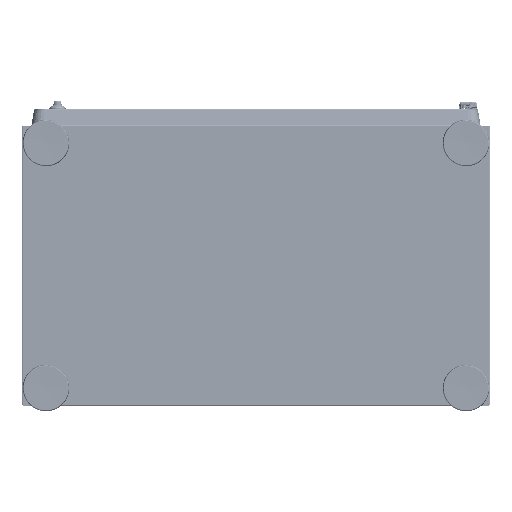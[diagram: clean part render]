
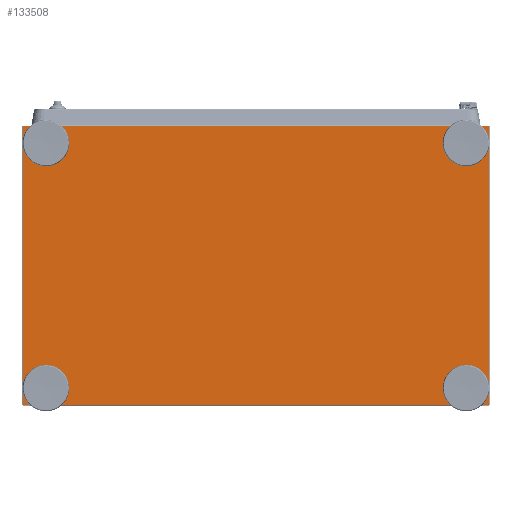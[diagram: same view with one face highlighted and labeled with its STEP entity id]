
A CAD part, front view. The second image highlights one B-rep face of the part: STEP entity #133508.
In plain terms, the highlighted planar face has unit normal (0, -1, 0) as drawn and (0, 0, 1) by its records, which use the part's own axes.
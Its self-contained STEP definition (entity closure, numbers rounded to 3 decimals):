
#1869 = CARTESIAN_POINT ( 'NONE',  ( -360., 210., 0. ) ) ;
#2169 = FACE_OUTER_BOUND ( 'NONE', #46766, .T. ) ;
#2260 = CARTESIAN_POINT ( 'NONE',  ( -399.429, -238.4, 0. ) ) ;
#2987 = VECTOR ( 'NONE', #48014, 1000. ) ;
#3164 = AXIS2_PLACEMENT_3D ( 'NONE', #15748, #83359, #151090 ) ;
#5316 = DIRECTION ( 'NONE',  ( 0., -1., 0. ) ) ;
#5492 = VERTEX_POINT ( 'NONE', #126043 ) ;
#8489 = VERTEX_POINT ( 'NONE', #161054 ) ;
#14598 = DIRECTION ( 'NONE',  ( 0., 0., 1. ) ) ;
#15214 = CARTESIAN_POINT ( 'NONE',  ( 399.4, 238.4, 0. ) ) ;
#15396 = DIRECTION ( 'NONE',  ( 1., 0., 0. ) ) ;
#15748 = CARTESIAN_POINT ( 'NONE',  ( 360., 210., 0. ) ) ;
#16508 = EDGE_LOOP ( 'NONE', ( #73150, #167597 ) ) ;
#17132 = CARTESIAN_POINT ( 'NONE',  ( 360., 210., 0. ) ) ;
#17245 = DIRECTION ( 'NONE',  ( 0., 0., 1. ) ) ;
#22624 = EDGE_CURVE ( 'NONE', #135163, #54489, #182198, .T. ) ;
#24409 = AXIS2_PLACEMENT_3D ( 'NONE', #25384, #123092, #126313 ) ;
#24881 = ORIENTED_EDGE ( 'NONE', *, *, #213248, .F. ) ;
#24917 = VERTEX_POINT ( 'NONE', #15214 ) ;
#25384 = CARTESIAN_POINT ( 'NONE',  ( -360., -210., 0. ) ) ;
#29949 = EDGE_CURVE ( 'NONE', #46911, #155435, #55289, .T. ) ;
#30849 = CIRCLE ( 'NONE', #154840, 10.5 ) ;
#32047 = CARTESIAN_POINT ( 'NONE',  ( 349.5, 210., 0. ) ) ;
#33892 = VERTEX_POINT ( 'NONE', #161455 ) ;
#36606 = ORIENTED_EDGE ( 'NONE', *, *, #154384, .F. ) ;
#38863 = EDGE_CURVE ( 'NONE', #33892, #140602, #30849, .T. ) ;
#39073 = VECTOR ( 'NONE', #123111, 1000. ) ;
#39753 = FACE_BOUND ( 'NONE', #157023, .T. ) ;
#40952 = ORIENTED_EDGE ( 'NONE', *, *, #22624, .F. ) ;
#43048 = EDGE_CURVE ( 'NONE', #155435, #46911, #98711, .T. ) ;
#43244 = VECTOR ( 'NONE', #5316, 1000. ) ;
#44081 = DIRECTION ( 'NONE',  ( 1., 0., 0. ) ) ;
#45619 = CARTESIAN_POINT ( 'NONE',  ( 399.4, -238.429, 0. ) ) ;
#46766 = EDGE_LOOP ( 'NONE', ( #68773, #172195, #207565, #65306, #50299, #68606, #201442, #120416 ) ) ;
#46911 = VERTEX_POINT ( 'NONE', #153319 ) ;
#48014 = DIRECTION ( 'NONE',  ( -1., 0., 0. ) ) ;
#48716 = LINE ( 'NONE', #98674, #114016 ) ;
#49848 = EDGE_CURVE ( 'NONE', #54312, #102368, #136612, .T. ) ;
#50299 = ORIENTED_EDGE ( 'NONE', *, *, #208452, .T. ) ;
#52295 = DIRECTION ( 'NONE',  ( -1., 0., 0. ) ) ;
#54312 = VERTEX_POINT ( 'NONE', #82455 ) ;
#54489 = VERTEX_POINT ( 'NONE', #125575 ) ;
#55289 = CIRCLE ( 'NONE', #179253, 10.5 ) ;
#65306 = ORIENTED_EDGE ( 'NONE', *, *, #119884, .T. ) ;
#65324 = AXIS2_PLACEMENT_3D ( 'NONE', #1869, #188140, #168263 ) ;
#68606 = ORIENTED_EDGE ( 'NONE', *, *, #93873, .T. ) ;
#68773 = ORIENTED_EDGE ( 'NONE', *, *, #145676, .T. ) ;
#69267 = CARTESIAN_POINT ( 'NONE',  ( 360., -210., 0. ) ) ;
#69356 = LINE ( 'NONE', #173626, #140483 ) ;
#73150 = ORIENTED_EDGE ( 'NONE', *, *, #38863, .F. ) ;
#77215 = EDGE_CURVE ( 'NONE', #54489, #135163, #166212, .T. ) ;
#82199 = DIRECTION ( 'NONE',  ( 1., 0., 0. ) ) ;
#82455 = CARTESIAN_POINT ( 'NONE',  ( 334.429, 238.4, 0. ) ) ;
#83041 = CIRCLE ( 'NONE', #65324, 10.5 ) ;
#83359 = DIRECTION ( 'NONE',  ( 0., 0., 1. ) ) ;
#84831 = DIRECTION ( 'NONE',  ( 1., 0., 0. ) ) ;
#88351 = EDGE_CURVE ( 'NONE', #24917, #54312, #132287, .T. ) ;
#89661 = CARTESIAN_POINT ( 'NONE',  ( -401., -240., 0. ) ) ;
#93873 = EDGE_CURVE ( 'NONE', #127825, #186982, #155289, .T. ) ;
#95091 = LINE ( 'NONE', #197069, #148122 ) ;
#98674 = CARTESIAN_POINT ( 'NONE',  ( -399.429, -238.4, 0. ) ) ;
#98711 = CIRCLE ( 'NONE', #24409, 10.5 ) ;
#98802 = CIRCLE ( 'NONE', #3164, 10.5 ) ;
#98929 = CARTESIAN_POINT ( 'NONE',  ( 360., -210., 0. ) ) ;
#99257 = DIRECTION ( 'NONE',  ( 1., 0., 0. ) ) ;
#102368 = VERTEX_POINT ( 'NONE', #215442 ) ;
#107442 = FACE_BOUND ( 'NONE', #150867, .T. ) ;
#108443 = DIRECTION ( 'NONE',  ( 0., 0., 1. ) ) ;
#108855 = EDGE_CURVE ( 'NONE', #8489, #5492, #95091, .T. ) ;
#114016 = VECTOR ( 'NONE', #15396, 1000. ) ;
#115382 = DIRECTION ( 'NONE',  ( 1., 0., 0. ) ) ;
#115872 = DIRECTION ( 'NONE',  ( 0., 0., 1. ) ) ;
#118206 = EDGE_LOOP ( 'NONE', ( #24881, #36606 ) ) ;
#119884 = EDGE_CURVE ( 'NONE', #102368, #132509, #69356, .T. ) ;
#120416 = ORIENTED_EDGE ( 'NONE', *, *, #108855, .T. ) ;
#121806 = CARTESIAN_POINT ( 'NONE',  ( -399.4, 238.429, 0. ) ) ;
#122857 = AXIS2_PLACEMENT_3D ( 'NONE', #17132, #115872, #99257 ) ;
#123025 = PLANE ( 'NONE',  #190820 ) ;
#123092 = DIRECTION ( 'NONE',  ( 0., 0., 1. ) ) ;
#123111 = DIRECTION ( 'NONE',  ( 1., 0., 0. ) ) ;
#125575 = CARTESIAN_POINT ( 'NONE',  ( 370.5, -210., 0. ) ) ;
#125837 = VECTOR ( 'NONE', #145427, 1000. ) ;
#126043 = CARTESIAN_POINT ( 'NONE',  ( 399.4, -238.4, 0. ) ) ;
#126313 = DIRECTION ( 'NONE',  ( 1., 0., 0. ) ) ;
#127825 = VERTEX_POINT ( 'NONE', #171427 ) ;
#132287 = LINE ( 'NONE', #199928, #2987 ) ;
#132417 = ORIENTED_EDGE ( 'NONE', *, *, #43048, .F. ) ;
#132509 = VERTEX_POINT ( 'NONE', #210499 ) ;
#133508 = ADVANCED_FACE ( 'NONE', ( #107442, #154084, #138551, #39753, #2169 ), #123025, .F. ) ;
#135163 = VERTEX_POINT ( 'NONE', #149568 ) ;
#135874 = CARTESIAN_POINT ( 'NONE',  ( -370.5, 210., 0. ) ) ;
#136612 = LINE ( 'NONE', #204239, #207774 ) ;
#137537 = EDGE_CURVE ( 'NONE', #186982, #8489, #48716, .T. ) ;
#138551 = FACE_BOUND ( 'NONE', #118206, .T. ) ;
#140483 = VECTOR ( 'NONE', #141445, 1000. ) ;
#140524 = VERTEX_POINT ( 'NONE', #216847 ) ;
#140602 = VERTEX_POINT ( 'NONE', #135874 ) ;
#140745 = DIRECTION ( 'NONE',  ( -1., 0., 0. ) ) ;
#141445 = DIRECTION ( 'NONE',  ( -1., 0., 0. ) ) ;
#143906 = CARTESIAN_POINT ( 'NONE',  ( -360., 210., 0. ) ) ;
#145427 = DIRECTION ( 'NONE',  ( 0., 1., 0. ) ) ;
#145676 = EDGE_CURVE ( 'NONE', #5492, #24917, #183025, .T. ) ;
#148122 = VECTOR ( 'NONE', #44081, 1000. ) ;
#149568 = CARTESIAN_POINT ( 'NONE',  ( 349.5, -210., 0. ) ) ;
#150867 = EDGE_LOOP ( 'NONE', ( #132417, #203076 ) ) ;
#151090 = DIRECTION ( 'NONE',  ( 1., 0., 0. ) ) ;
#153319 = CARTESIAN_POINT ( 'NONE',  ( -370.5, -210., 0. ) ) ;
#154084 = FACE_BOUND ( 'NONE', #16508, .T. ) ;
#154384 = EDGE_CURVE ( 'NONE', #198360, #140524, #98802, .T. ) ;
#154840 = AXIS2_PLACEMENT_3D ( 'NONE', #143906, #108443, #208274 ) ;
#155289 = LINE ( 'NONE', #2260, #39073 ) ;
#155435 = VERTEX_POINT ( 'NONE', #175644 ) ;
#157023 = EDGE_LOOP ( 'NONE', ( #170027, #40952 ) ) ;
#161054 = CARTESIAN_POINT ( 'NONE',  ( 334.429, -238.4, 0. ) ) ;
#161455 = CARTESIAN_POINT ( 'NONE',  ( -349.5, 210., 0. ) ) ;
#166212 = CIRCLE ( 'NONE', #194478, 10.5 ) ;
#167597 = ORIENTED_EDGE ( 'NONE', *, *, #210812, .F. ) ;
#168263 = DIRECTION ( 'NONE',  ( 1., 0., 0. ) ) ;
#170027 = ORIENTED_EDGE ( 'NONE', *, *, #77215, .F. ) ;
#171427 = CARTESIAN_POINT ( 'NONE',  ( -399.4, -238.4, 0. ) ) ;
#171718 = LINE ( 'NONE', #121806, #43244 ) ;
#172195 = ORIENTED_EDGE ( 'NONE', *, *, #88351, .T. ) ;
#173626 = CARTESIAN_POINT ( 'NONE',  ( -334.429, 238.4, 0. ) ) ;
#175644 = CARTESIAN_POINT ( 'NONE',  ( -349.5, -210., 0. ) ) ;
#179253 = AXIS2_PLACEMENT_3D ( 'NONE', #213020, #196328, #115382 ) ;
#182198 = CIRCLE ( 'NONE', #185847, 10.5 ) ;
#183025 = LINE ( 'NONE', #45619, #125837 ) ;
#185847 = AXIS2_PLACEMENT_3D ( 'NONE', #98929, #14598, #82199 ) ;
#186982 = VERTEX_POINT ( 'NONE', #217329 ) ;
#188140 = DIRECTION ( 'NONE',  ( 0., 0., 1. ) ) ;
#189514 = DIRECTION ( 'NONE',  ( 0., 0., -1. ) ) ;
#190820 = AXIS2_PLACEMENT_3D ( 'NONE', #89661, #189514, #140745 ) ;
#194478 = AXIS2_PLACEMENT_3D ( 'NONE', #69267, #17245, #84831 ) ;
#196328 = DIRECTION ( 'NONE',  ( 0., 0., 1. ) ) ;
#197069 = CARTESIAN_POINT ( 'NONE',  ( 334.429, -238.4, 0. ) ) ;
#198360 = VERTEX_POINT ( 'NONE', #32047 ) ;
#199928 = CARTESIAN_POINT ( 'NONE',  ( 399.429, 238.4, 0. ) ) ;
#201442 = ORIENTED_EDGE ( 'NONE', *, *, #137537, .T. ) ;
#203076 = ORIENTED_EDGE ( 'NONE', *, *, #29949, .F. ) ;
#204239 = CARTESIAN_POINT ( 'NONE',  ( 399.429, 238.4, 0. ) ) ;
#207565 = ORIENTED_EDGE ( 'NONE', *, *, #49848, .T. ) ;
#207774 = VECTOR ( 'NONE', #52295, 1000. ) ;
#208274 = DIRECTION ( 'NONE',  ( 1., 0., 0. ) ) ;
#208452 = EDGE_CURVE ( 'NONE', #132509, #127825, #171718, .T. ) ;
#210499 = CARTESIAN_POINT ( 'NONE',  ( -399.4, 238.4, 0. ) ) ;
#210812 = EDGE_CURVE ( 'NONE', #140602, #33892, #83041, .T. ) ;
#213020 = CARTESIAN_POINT ( 'NONE',  ( -360., -210., 0. ) ) ;
#213248 = EDGE_CURVE ( 'NONE', #140524, #198360, #218442, .T. ) ;
#215442 = CARTESIAN_POINT ( 'NONE',  ( -334.429, 238.4, 0. ) ) ;
#216847 = CARTESIAN_POINT ( 'NONE',  ( 370.5, 210., 0. ) ) ;
#217329 = CARTESIAN_POINT ( 'NONE',  ( -334.429, -238.4, 0. ) ) ;
#218442 = CIRCLE ( 'NONE', #122857, 10.5 ) ;
